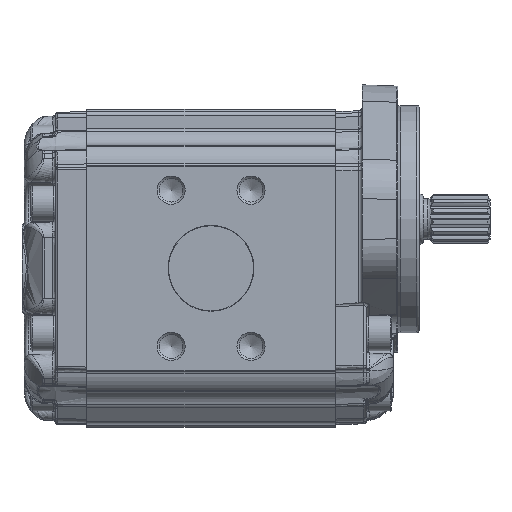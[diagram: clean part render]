
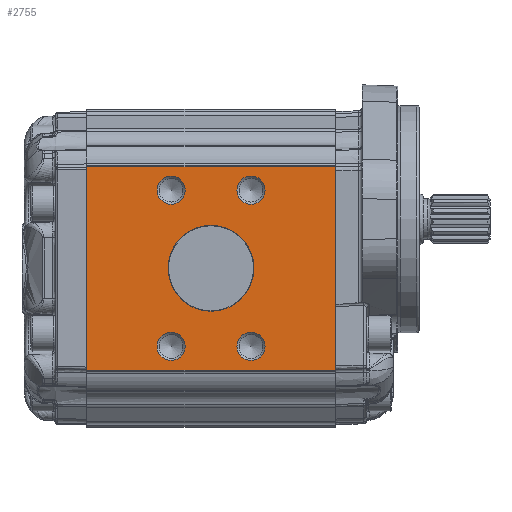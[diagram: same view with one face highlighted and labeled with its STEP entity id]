
A CAD part, left-side view. The second image highlights one B-rep face of the part: STEP entity #2755.
In plain terms, the highlighted planar face has unit normal (-1, 0, 0).
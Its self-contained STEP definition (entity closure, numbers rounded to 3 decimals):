
#2755 = ADVANCED_FACE( '', ( #7845, #7846, #7847, #7848, #7849, #7850 ), #7851, .T. );
#7845 = FACE_BOUND( '', #17234, .T. );
#7846 = FACE_BOUND( '', #17235, .T. );
#7847 = FACE_BOUND( '', #17236, .T. );
#7848 = FACE_BOUND( '', #17237, .T. );
#7849 = FACE_BOUND( '', #17238, .T. );
#7850 = FACE_OUTER_BOUND( '', #17239, .T. );
#7851 = PLANE( '', #17240 );
#17234 = EDGE_LOOP( '', ( #71114 ) );
#17235 = EDGE_LOOP( '', ( #71115 ) );
#17236 = EDGE_LOOP( '', ( #71116 ) );
#17237 = EDGE_LOOP( '', ( #71117 ) );
#17238 = EDGE_LOOP( '', ( #71118 ) );
#17239 = EDGE_LOOP( '', ( #71119, #71120, #71121, #71122 ) );
#17240 = AXIS2_PLACEMENT_3D( '', #71123, #71124, #71125 );
#71114 = ORIENTED_EDGE( '', *, *, #90782, .T. );
#71115 = ORIENTED_EDGE( '', *, *, #90783, .T. );
#71116 = ORIENTED_EDGE( '', *, *, #90784, .T. );
#71117 = ORIENTED_EDGE( '', *, *, #90785, .T. );
#71118 = ORIENTED_EDGE( '', *, *, #90786, .T. );
#71119 = ORIENTED_EDGE( '', *, *, #90787, .F. );
#71120 = ORIENTED_EDGE( '', *, *, #90788, .T. );
#71121 = ORIENTED_EDGE( '', *, *, #90789, .F. );
#71122 = ORIENTED_EDGE( '', *, *, #90790, .T. );
#71123 = CARTESIAN_POINT( '', ( -57.5, -127.87, -84.819 ) );
#71124 = DIRECTION( '', ( -1., 0., 0. ) );
#71125 = DIRECTION( '', ( 0., 0., -1. ) );
#90782 = EDGE_CURVE( '', #99993, #99993, #99994, .F. );
#90783 = EDGE_CURVE( '', #99995, #99995, #99996, .F. );
#90784 = EDGE_CURVE( '', #99997, #99997, #99998, .F. );
#90785 = EDGE_CURVE( '', #99999, #99999, #100000, .F. );
#90786 = EDGE_CURVE( '', #100001, #100001, #100002, .F. );
#90787 = EDGE_CURVE( '', #100003, #100004, #100005, .T. );
#90788 = EDGE_CURVE( '', #100003, #100006, #100007, .F. );
#90789 = EDGE_CURVE( '', #100008, #100006, #100009, .T. );
#90790 = EDGE_CURVE( '', #100008, #100004, #100010, .F. );
#99993 = VERTEX_POINT( '', #115065 );
#99994 = CIRCLE( '', #115066, 6.292 );
#99995 = VERTEX_POINT( '', #115067 );
#99996 = CIRCLE( '', #115068, 6.292 );
#99997 = VERTEX_POINT( '', #115069 );
#99998 = CIRCLE( '', #115070, 6.292 );
#99999 = VERTEX_POINT( '', #115071 );
#100000 = CIRCLE( '', #115072, 6.292 );
#100001 = VERTEX_POINT( '', #115073 );
#100002 = CIRCLE( '', #115074, 19.2 );
#100003 = VERTEX_POINT( '', #115075 );
#100004 = VERTEX_POINT( '', #115076 );
#100005 = LINE( '', #115077, #115078 );
#100006 = VERTEX_POINT( '', #115079 );
#100007 = LINE( '', #115080, #115081 );
#100008 = VERTEX_POINT( '', #115082 );
#100009 = LINE( '', #115083, #115084 );
#100010 = LINE( '', #115085, #115086 );
#115065 = CARTESIAN_POINT( '', ( -57.5, 73.355, 28.633 ) );
#115066 = AXIS2_PLACEMENT_3D( '', #148667, #148668, #148669 );
#115067 = CARTESIAN_POINT( '', ( -57.5, 37.645, 28.633 ) );
#115068 = AXIS2_PLACEMENT_3D( '', #148670, #148671, #148672 );
#115069 = CARTESIAN_POINT( '', ( -57.5, 73.355, -41.217 ) );
#115070 = AXIS2_PLACEMENT_3D( '', #148673, #148674, #148675 );
#115071 = CARTESIAN_POINT( '', ( -57.5, 37.645, -41.217 ) );
#115072 = AXIS2_PLACEMENT_3D( '', #148676, #148677, #148678 );
#115073 = CARTESIAN_POINT( '', ( -57.5, 55.5, -19.2 ) );
#115074 = AXIS2_PLACEMENT_3D( '', #148679, #148680, #148681 );
#115075 = CARTESIAN_POINT( '', ( -57.5, 111., -45.5 ) );
#115076 = CARTESIAN_POINT( '', ( -57.5, 111., 45.5 ) );
#115077 = CARTESIAN_POINT( '', ( -57.5, 111., -84.819 ) );
#115078 = VECTOR( '', #148682, 1000. );
#115079 = CARTESIAN_POINT( '', ( -57.5, 0., -45.5 ) );
#115080 = CARTESIAN_POINT( '', ( -57.5, -127.87, -45.5 ) );
#115081 = VECTOR( '', #148683, 1000. );
#115082 = CARTESIAN_POINT( '', ( -57.5, 0., 45.5 ) );
#115083 = CARTESIAN_POINT( '', ( -57.5, 0., -44.978 ) );
#115084 = VECTOR( '', #148684, 1000. );
#115085 = CARTESIAN_POINT( '', ( -57.5, -127.87, 45.5 ) );
#115086 = VECTOR( '', #148685, 1000. );
#148667 = CARTESIAN_POINT( '', ( -57.5, 73.355, 34.925 ) );
#148668 = DIRECTION( '', ( -1., 0., 0. ) );
#148669 = DIRECTION( '', ( 0., 0., -1. ) );
#148670 = CARTESIAN_POINT( '', ( -57.5, 37.645, 34.925 ) );
#148671 = DIRECTION( '', ( -1., 0., 0. ) );
#148672 = DIRECTION( '', ( 0., 0., -1. ) );
#148673 = CARTESIAN_POINT( '', ( -57.5, 73.355, -34.925 ) );
#148674 = DIRECTION( '', ( -1., 0., 0. ) );
#148675 = DIRECTION( '', ( 0., 0., -1. ) );
#148676 = CARTESIAN_POINT( '', ( -57.5, 37.645, -34.925 ) );
#148677 = DIRECTION( '', ( -1., 0., 0. ) );
#148678 = DIRECTION( '', ( 0., 0., -1. ) );
#148679 = CARTESIAN_POINT( '', ( -57.5, 55.5, 0. ) );
#148680 = DIRECTION( '', ( -1., 0., 0. ) );
#148681 = DIRECTION( '', ( 0., 0., -1. ) );
#148682 = DIRECTION( '', ( 0., 0., 1. ) );
#148683 = DIRECTION( '', ( 0., 1., 0. ) );
#148684 = DIRECTION( '', ( 0., 0., -1. ) );
#148685 = DIRECTION( '', ( 0., -1., 0. ) );
